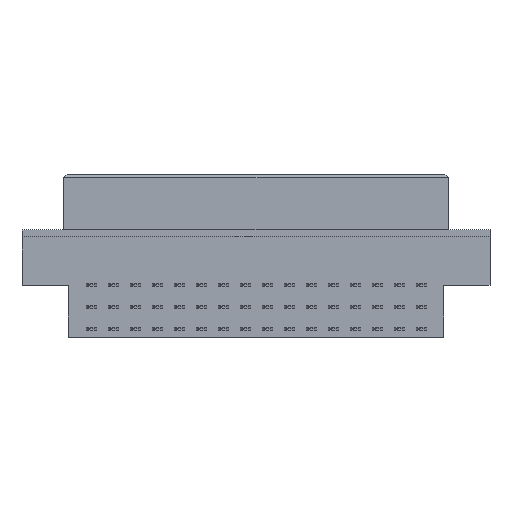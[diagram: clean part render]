
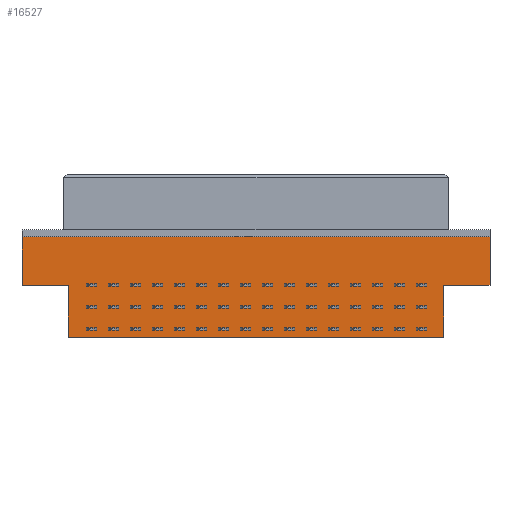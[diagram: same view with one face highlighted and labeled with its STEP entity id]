
A CAD part, top view. The second image highlights one B-rep face of the part: STEP entity #16527.
In plain terms, the highlighted planar face has unit normal (0, 0, 1).
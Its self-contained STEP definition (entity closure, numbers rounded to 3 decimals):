
#90 = VERTEX_POINT ( 'NONE', #13532 ) ;
#130 = ORIENTED_EDGE ( 'NONE', *, *, #13591, .F. ) ;
#507 = EDGE_CURVE ( 'NONE', #6221, #5071, #17563, .T. ) ;
#675 = VERTEX_POINT ( 'NONE', #8248 ) ;
#1172 = ORIENTED_EDGE ( 'NONE', *, *, #6746, .F. ) ;
#1393 = LINE ( 'NONE', #2452, #9924 ) ;
#1534 = CARTESIAN_POINT ( 'NONE',  ( 382.668, 189.975, -0.95 ) ) ;
#1807 = LINE ( 'NONE', #15974, #16610 ) ;
#2084 = CARTESIAN_POINT ( 'NONE',  ( 388.018, 180.775, -0.95 ) ) ;
#2163 = ORIENTED_EDGE ( 'NONE', *, *, #507, .F. ) ;
#2452 = CARTESIAN_POINT ( 'NONE',  ( 433.993, 186.775, -0.95 ) ) ;
#2970 = CARTESIAN_POINT ( 'NONE',  ( 436.668, 186.775, -0.95 ) ) ;
#3450 = AXIS2_PLACEMENT_3D ( 'NONE', #12330, #9338, #18001 ) ;
#3729 = LINE ( 'NONE', #13020, #14763 ) ;
#4216 = EDGE_LOOP ( 'NONE', ( #4617, #7723, #1172, #17520, #11854, #130, #14896, #2163 ) ) ;
#4259 = EDGE_CURVE ( 'NONE', #17344, #12124, #1393, .T. ) ;
#4402 = DIRECTION ( 'NONE',  ( 0., -1., 0. ) ) ;
#4570 = DIRECTION ( 'NONE',  ( -1., 0., 0. ) ) ;
#4617 = ORIENTED_EDGE ( 'NONE', *, *, #17008, .F. ) ;
#4688 = VECTOR ( 'NONE', #17302, 1000. ) ;
#5071 = VERTEX_POINT ( 'NONE', #8727 ) ;
#6221 = VERTEX_POINT ( 'NONE', #15324 ) ;
#6678 = CARTESIAN_POINT ( 'NONE',  ( 436.668, 189.575, -0.95 ) ) ;
#6746 = EDGE_CURVE ( 'NONE', #675, #11838, #16096, .T. ) ;
#7723 = ORIENTED_EDGE ( 'NONE', *, *, #11586, .T. ) ;
#8248 = CARTESIAN_POINT ( 'NONE',  ( 431.318, 180.775, -0.95 ) ) ;
#8727 = CARTESIAN_POINT ( 'NONE',  ( 382.668, 192.375, -0.95 ) ) ;
#8933 = CARTESIAN_POINT ( 'NONE',  ( 409.668, 192.375, -0.95 ) ) ;
#9172 = DIRECTION ( 'NONE',  ( -1., 0., 0. ) ) ;
#9338 = DIRECTION ( 'NONE',  ( 0., 0., -1. ) ) ;
#9506 = VERTEX_POINT ( 'NONE', #10971 ) ;
#9924 = VECTOR ( 'NONE', #14083, 1000. ) ;
#10308 = DIRECTION ( 'NONE',  ( 1., 0., 0. ) ) ;
#10448 = EDGE_CURVE ( 'NONE', #5071, #9506, #10963, .T. ) ;
#10749 = VECTOR ( 'NONE', #10308, 1000. ) ;
#10963 = LINE ( 'NONE', #8933, #10749 ) ;
#10971 = CARTESIAN_POINT ( 'NONE',  ( 436.668, 192.375, -0.95 ) ) ;
#11234 = FACE_OUTER_BOUND ( 'NONE', #4216, .T. ) ;
#11382 = VECTOR ( 'NONE', #12716, 1000. ) ;
#11586 = EDGE_CURVE ( 'NONE', #90, #11838, #3729, .T. ) ;
#11753 = VECTOR ( 'NONE', #14746, 1000. ) ;
#11838 = VERTEX_POINT ( 'NONE', #2084 ) ;
#11854 = ORIENTED_EDGE ( 'NONE', *, *, #4259, .F. ) ;
#11862 = CARTESIAN_POINT ( 'NONE',  ( 431.318, 242.77, -0.95 ) ) ;
#12124 = VERTEX_POINT ( 'NONE', #18564 ) ;
#12263 = VECTOR ( 'NONE', #9172, 1000. ) ;
#12330 = CARTESIAN_POINT ( 'NONE',  ( 436.668, 186.775, -0.95 ) ) ;
#12716 = DIRECTION ( 'NONE',  ( 0., -1., 0. ) ) ;
#13020 = CARTESIAN_POINT ( 'NONE',  ( 388.018, 242.77, -0.95 ) ) ;
#13532 = CARTESIAN_POINT ( 'NONE',  ( 388.018, 186.775, -0.95 ) ) ;
#13591 = EDGE_CURVE ( 'NONE', #9506, #17344, #14295, .T. ) ;
#14083 = DIRECTION ( 'NONE',  ( -1., 0., 0. ) ) ;
#14295 = LINE ( 'NONE', #6678, #11382 ) ;
#14746 = DIRECTION ( 'NONE',  ( 0., -1., 0. ) ) ;
#14763 = VECTOR ( 'NONE', #4402, 1000. ) ;
#14896 = ORIENTED_EDGE ( 'NONE', *, *, #10448, .F. ) ;
#15163 = EDGE_CURVE ( 'NONE', #12124, #675, #15565, .T. ) ;
#15324 = CARTESIAN_POINT ( 'NONE',  ( 382.668, 186.775, -0.95 ) ) ;
#15332 = PLANE ( 'NONE',  #3450 ) ;
#15565 = LINE ( 'NONE', #11862, #11753 ) ;
#15974 = CARTESIAN_POINT ( 'NONE',  ( 385.343, 186.775, -0.95 ) ) ;
#16096 = LINE ( 'NONE', #16321, #12263 ) ;
#16321 = CARTESIAN_POINT ( 'NONE',  ( 388.018, 180.775, -0.95 ) ) ;
#16527 = ADVANCED_FACE ( 'NONE', ( #11234 ), #15332, .F. ) ;
#16610 = VECTOR ( 'NONE', #4570, 1000. ) ;
#17008 = EDGE_CURVE ( 'NONE', #90, #6221, #1807, .T. ) ;
#17302 = DIRECTION ( 'NONE',  ( 0., 1., 0. ) ) ;
#17344 = VERTEX_POINT ( 'NONE', #2970 ) ;
#17520 = ORIENTED_EDGE ( 'NONE', *, *, #15163, .F. ) ;
#17563 = LINE ( 'NONE', #1534, #4688 ) ;
#18001 = DIRECTION ( 'NONE',  ( -1., 0., 0. ) ) ;
#18564 = CARTESIAN_POINT ( 'NONE',  ( 431.318, 186.775, -0.95 ) ) ;
